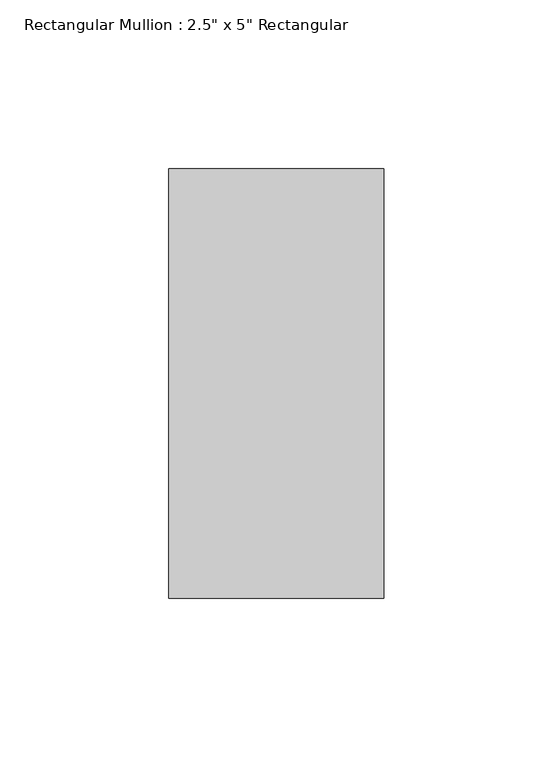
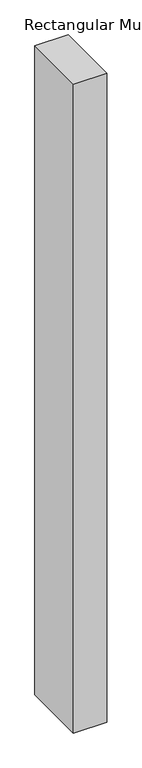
"""IFC4 building model written with IfcOpenShell, lengths in millimetres: member geometry."""

from ifc_helpers import new_model, si_unit, frame, origin, place, context, project, spatial, polyline, outline, extrude, source, transform, mapped, element, save


def member_d37749d9(model_context):
    return source(origin(), model_context, "Body", "SweptSolid", [
        extrude(outline(polyline([(0.0, 63.5), (0.0, -63.5), (-63.5, -63.5), (-63.5, 63.5), (0.0, 63.5)])), frame((0.0, 0.0, -1308.1), z_axis=(0.0, 0.0, 1.0), x_axis=(1.0, 0.0, 0.0)), (0.0, 0.0, 1.0), 1308.1),
    ])


if __name__ == "__main__":
    model = new_model("IFC4")
    model_context = context("Model", 3, world=origin())
    ifc_project = project(units=[si_unit("LENGTHUNIT", "METRE", prefix="MILLI")], contexts=[model_context])
    site = spatial("IfcSite", under=ifc_project)
    building = spatial("IfcBuilding", under=site)
    placement = place(None, origin())
    member_shape = member_d37749d9(model_context)
    element("IfcMember", 1, ObjectType="Rectangular Mullion : 2.5\" x 5\" Rectangular", at=placement, inside=building, context=model_context, shape_type="MappedRepresentation", body=[
        mapped(member_shape, transform((0.0, 0.0, 0.0), x_axis=(1.0, 0.0, 0.0), y_axis=(0.0, 1.0, 0.0), z_axis=(0.0, 0.0, 1.0))),
    ])
    save(model, "model.ifc")
